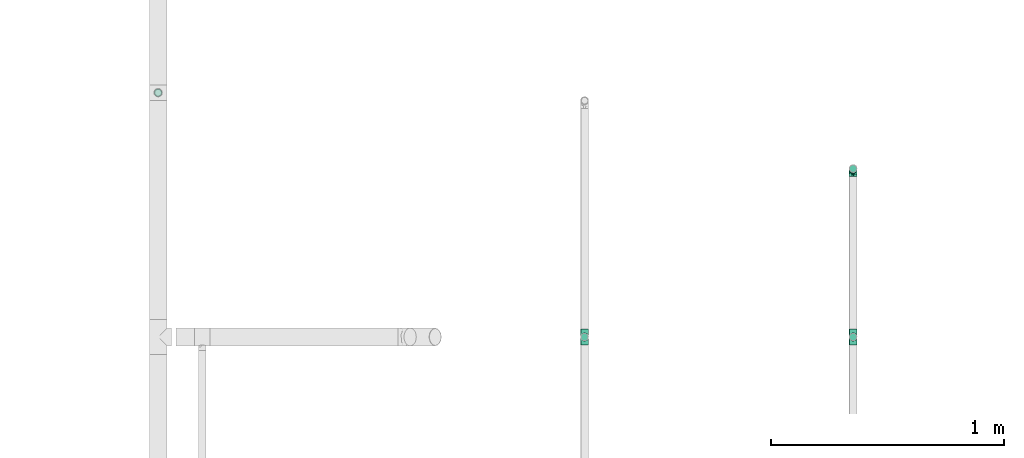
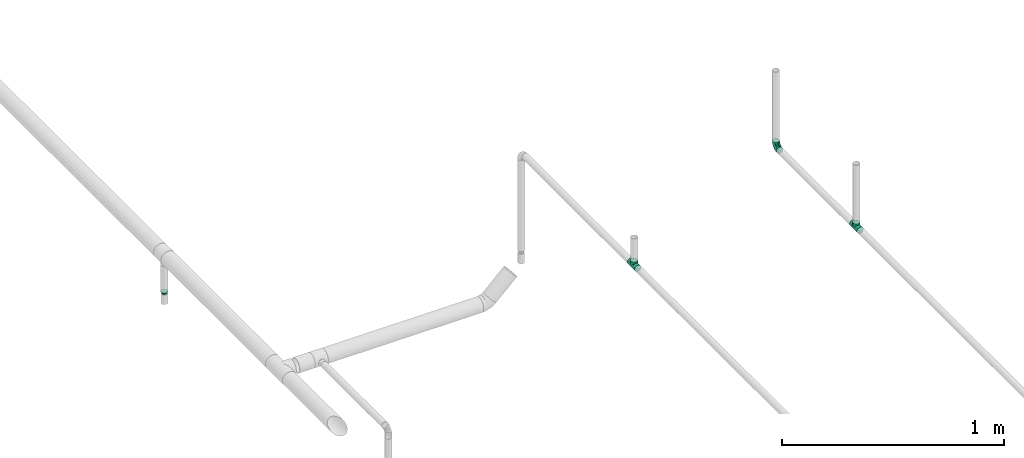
# One storey, part 42 of 95: 4 flow fittings.
"""IFC2X3 building model written with IfcOpenShell, lengths in millimetres."""

from ifc_helpers import new_model, entity, si_unit, converted_unit, derived_unit, direction, frame, origin_with_axes, place, context, subcontext, project, spatial, open_shell, surface_model, source, transform, mapped, type_object, element, save


model = new_model("IFC2X3")

# Units and contexts
model_context = context("Model", 3, precision=0.01, world=frame((0.0, 4.29681676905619e-09, 0.0)), true_north=direction((4.01073788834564e-13, 1.0)))
plan_context = context("Plan", 3, precision=0.01, world=frame((0.0, 4.29681676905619e-09, 0.0)), true_north=direction((4.01073788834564e-13, 1.0)))
body_context = subcontext(model_context, "Body", "Model", "MODEL_VIEW")
ifc_project = project(units=[converted_unit("PLANEANGLEUNIT", "DEGREE", entity("IfcPositiveLengthMeasure", 0.0174532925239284), si_unit("PLANEANGLEUNIT", "RADIAN"), dimensions=[0, 0, 0, 0, 0, 0, 0]), si_unit("AREAUNIT", "SQUARE_METRE"), si_unit("LENGTHUNIT", "METRE", prefix="MILLI"), si_unit("MASSUNIT", "GRAM", prefix="KILO"), si_unit("POWERUNIT", "WATT"), si_unit("PRESSUREUNIT", "PASCAL"), si_unit("FORCEUNIT", "NEWTON", prefix="KILO"), si_unit("ELECTRICVOLTAGEUNIT", "VOLT"), si_unit("ELECTRICCURRENTUNIT", "AMPERE"), si_unit("THERMODYNAMICTEMPERATUREUNIT", "DEGREE_CELSIUS"), si_unit("TIMEUNIT", "SECOND"), si_unit("VOLUMEUNIT", "CUBIC_METRE"), derived_unit("LINEARVELOCITYUNIT", [(si_unit("LENGTHUNIT", "METRE"), 1), (si_unit("TIMEUNIT", "SECOND"), -1)]), derived_unit("VOLUMETRICFLOWRATEUNIT", [(si_unit("VOLUMEUNIT", "CUBIC_METRE"), 1), (si_unit("TIMEUNIT", "SECOND"), -1)]), derived_unit("THERMALTRANSMITTANCEUNIT", [(si_unit("POWERUNIT", "WATT"), 1), (si_unit("THERMODYNAMICTEMPERATUREUNIT", "KELVIN"), -1), (si_unit("AREAUNIT", "SQUARE_METRE"), -1)]), derived_unit("SOUNDPRESSUREUNIT", [(si_unit("PRESSUREUNIT", "PASCAL"), 1)])], contexts=[model_context, plan_context])

# Site, building, storey
site_placement = place(None, frame((0.0, -4.29681676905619e-09, 0.0), z_axis=(0.0, 0.0, 1.0), x_axis=(1.0, 0.0, 0.0)))
site = spatial("IfcSite", under=ifc_project, at=site_placement, CompositionType="ELEMENT")
building_placement = place(site_placement, frame((0.0, 4.29681676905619e-09, 0.0), z_axis=(0.0, 0.0, 1.0), x_axis=(1.0, 0.0, 0.0)))
building = spatial("IfcBuilding", under=site, at=building_placement, Name="mc-building", CompositionType="ELEMENT")
storey_placement = place(building_placement, frame((0.0, 0.0, 210900.0), z_axis=(0.0, 0.0, 1.0), x_axis=(1.0, 0.0, 0.0)))
storey = spatial("IfcBuildingStorey", under=building, at=storey_placement, Name="Nivå F", CompositionType="ELEMENT", Elevation=210900.0)

# Flow fittings
pipe_fitting_type_1 = type_object("IfcPipeFittingType", Name="magi_pipe_fe_reducer_centric_short_NOR", PredefinedType="TRANSITION")
shared_shape_1 = source(origin_with_axes(), body_context, "Body", "SurfaceModel", [
    surface_model("IfcShellBasedSurfaceModel", [(14.4, 5.35, -9.26647), (14.4, 0.0, -10.7), (14.4, 2.76936, -10.33541), (14.4, 10.33541, -2.76936), (14.4, 7.56604, -7.56604), (14.4, -10.33541, -2.76936), (14.4, 9.26647, -5.35), (14.4, 0.0, 10.7), (14.4, -5.35, -9.26647), (14.4, -2.76936, -10.33541), (14.4, -7.56604, -7.56604), (14.4, -9.26647, -5.35), (14.4, 10.7, 0.0), (14.4, 10.33541, 2.76936), (14.4, 9.26647, 5.35), (14.4, 7.56604, 7.56604), (14.4, 2.76936, 10.33541), (14.4, 5.35, 9.26647), (14.4, -10.33541, 2.76936), (14.4, -7.56604, 7.56604), (14.4, -9.26647, 5.35), (14.4, -10.7, 0.0), (14.4, -2.76936, 10.33541), (14.4, -5.35, 9.26647), (12.4, 2.76936, 10.33541), (12.4, -10.33541, -2.76936), (12.4, 0.0, 10.7), (12.4, 5.35, 9.26647), (12.4, 7.56604, 7.56604), (12.4, 9.26647, 5.35), (12.4, 10.33541, 2.76936), (12.4, -10.33541, 2.76936), (12.4, -2.76936, 10.33541), (12.4, -7.56604, 7.56604), (12.4, -5.35, 9.26647), (12.4, -9.26647, 5.35), (12.4, -10.7, 0.0), (12.4, 10.33541, -2.76936), (12.4, 5.35, -9.26647), (12.4, 9.26647, -5.35), (12.4, 7.56604, -7.56604), (12.4, 2.76936, -10.33541), (12.4, -9.26647, -5.35), (12.4, -5.35, -9.26647), (12.4, -7.56604, -7.56604), (12.4, 0.0, -10.7), (12.4, -2.76936, -10.33541), (12.4, 10.7, 0.0), (-2.0, 11.9501, 11.9501), (-2.0, 0.0, 16.9), (-2.0, 4.37404, 16.32415), (-2.0, 8.45, 14.63583), (-2.0, 14.63583, 8.45), (-2.0, 16.32415, 4.37404), (-2.0, -16.32415, 4.37404), (-2.0, -8.45, 14.63583), (-2.0, -14.63583, 8.45), (-2.0, -11.9501, 11.9501), (-2.0, -4.37404, 16.32415), (-2.0, -16.32415, -4.37404), (-2.0, -16.9, 0.0), (-2.0, -8.45, -14.63583), (-2.0, 16.32415, -4.37404), (-2.0, 11.9501, -11.9501), (-2.0, 14.63583, -8.45), (-2.0, 8.45, -14.63583), (-2.0, 4.37404, -16.32415), (-2.0, 0.0, -16.9), (-2.0, -11.9501, -11.9501), (-2.0, -14.63583, -8.45), (-2.0, -4.37404, -16.32415), (-2.0, 16.9, 0.0), (0.0, 4.37404, -16.32415), (0.0, 8.45, -14.63583), (0.0, 11.9501, -11.9501), (0.0, 0.0, -16.9), (0.0, 16.32415, -4.37404), (0.0, 16.32415, 4.37404), (0.0, 14.63583, -8.45), (0.0, -8.45, -14.63583), (0.0, -4.37404, -16.32415), (0.0, -11.9501, -11.9501), (0.0, -16.32415, -4.37404), (0.0, -14.63583, -8.45), (0.0, -16.32415, 4.37404), (0.0, 16.9, 0.0), (0.0, 14.63583, 8.45), (0.0, 11.9501, 11.9501), (0.0, 4.37404, 16.32415), (0.0, 8.45, 14.63583), (0.0, 0.0, 16.9), (0.0, -14.63583, 8.45), (0.0, -16.9, 0.0), (0.0, -8.45, 14.63583), (0.0, -11.9501, 11.9501), (0.0, -4.37404, 16.32415), (12.4, 9.3625, -2.31662), (0.0, 14.42505, -5.97505), (0.0, 15.66253, -2.98753), (12.4, -6.6875, -6.94985), (0.0, -13.18758, -8.96258), (0.0, 2.98753, -15.66253), (12.4, 0.0, -9.26647), (12.4, 6.6875, -6.94985), (0.0, 8.96258, -13.18758), (12.4, -9.3625, -2.31662), (0.0, -15.66253, -2.98753), (0.0, -14.42505, -5.97505), (0.0, 5.97505, -14.42505), (0.0, -2.98753, -15.66253), (0.0, -8.96258, -13.18758), (0.0, 13.18758, -8.96258), (12.4, 8.025, -4.63324), (12.4, -2.675, -9.26647), (12.4, 2.675, -9.26647), (0.0, -5.97505, -14.42505), (12.4, -8.025, -4.63324), (12.4, -9.3625, 2.31662), (0.0, -14.42505, 5.97505), (0.0, -15.66253, 2.98753), (12.4, 6.6875, 6.94985), (0.0, 13.18758, 8.96258), (0.0, -2.98753, 15.66253), (12.4, 0.0, 9.26647), (12.4, -6.6875, 6.94985), (0.0, -8.96258, 13.18758), (12.4, 9.3625, 2.31662), (0.0, 15.66253, 2.98753), (0.0, 14.42505, 5.97505), (0.0, -5.97505, 14.42505), (0.0, 2.98753, 15.66253), (0.0, 8.96258, 13.18758), (0.0, -13.18758, 8.96258), (12.4, -8.025, 4.63324), (12.4, 2.675, 9.26647), (12.4, -2.675, 9.26647), (0.0, 5.97505, 14.42505), (12.4, 8.025, 4.63324)], [open_shell([[[0, 1, 2]], [[3, 0, 4]], [[5, 0, 3]], [[3, 4, 6]], [[7, 5, 3]], [[1, 8, 9]], [[1, 0, 8]], [[10, 5, 11]], [[5, 10, 8]], [[0, 5, 8]], [[3, 12, 13]], [[13, 14, 15]], [[13, 15, 16]], [[7, 3, 16]], [[16, 15, 17]], [[7, 18, 5]], [[18, 19, 20]], [[21, 5, 18]], [[19, 22, 23]], [[22, 19, 18]], [[7, 22, 18]], [[13, 16, 3]], [[24, 25, 26]], [[27, 25, 24]], [[28, 29, 30]], [[28, 25, 27]], [[31, 26, 25]], [[32, 33, 34]], [[33, 32, 31]], [[33, 31, 35]], [[32, 26, 31]], [[31, 25, 36]], [[30, 37, 28]], [[25, 28, 37]], [[38, 37, 39]], [[37, 38, 25]], [[38, 39, 40]], [[41, 25, 38]], [[42, 43, 44]], [[43, 42, 25]], [[43, 45, 46]], [[43, 25, 41]], [[41, 45, 43]], [[37, 30, 47]], [[25, 5, 36]], [[42, 11, 25]], [[8, 44, 43]], [[42, 44, 10]], [[9, 43, 46]], [[25, 11, 5]], [[5, 21, 36]], [[9, 8, 43]], [[10, 44, 8]], [[10, 11, 42]], [[1, 9, 46]], [[46, 45, 1]], [[41, 2, 45]], [[38, 0, 41]], [[6, 40, 39]], [[38, 40, 4]], [[3, 39, 37]], [[38, 4, 0]], [[0, 2, 41]], [[12, 3, 37]], [[6, 39, 3]], [[6, 4, 40]], [[47, 12, 37]], [[45, 2, 1]], [[30, 13, 47]], [[29, 14, 30]], [[17, 28, 27]], [[29, 28, 15]], [[16, 27, 24]], [[30, 14, 13]], [[13, 12, 47]], [[16, 17, 27]], [[15, 28, 17]], [[15, 14, 29]], [[7, 16, 24]], [[24, 26, 7]], [[32, 22, 26]], [[34, 23, 32]], [[20, 33, 35]], [[34, 33, 19]], [[18, 35, 31]], [[34, 19, 23]], [[23, 22, 32]], [[21, 18, 31]], [[20, 35, 18]], [[20, 19, 33]], [[36, 21, 31]], [[26, 22, 7]], [[48, 49, 50]], [[48, 50, 51]], [[48, 52, 53]], [[48, 53, 49]], [[49, 53, 54]], [[55, 56, 57]], [[55, 58, 49]], [[56, 55, 49]], [[49, 54, 56]], [[54, 59, 60]], [[54, 53, 61]], [[53, 62, 63]], [[63, 62, 64]], [[63, 65, 66]], [[61, 53, 63]], [[67, 63, 66]], [[59, 68, 69]], [[68, 59, 61]], [[61, 67, 70]], [[59, 54, 61]], [[63, 67, 61]], [[53, 71, 62]], [[72, 73, 74]], [[75, 72, 74]], [[74, 76, 77]], [[76, 74, 78]], [[74, 77, 79]], [[75, 79, 80]], [[75, 74, 79]], [[81, 82, 83]], [[82, 81, 79]], [[79, 84, 82]], [[77, 76, 85]], [[77, 86, 87]], [[77, 87, 88]], [[88, 84, 79]], [[88, 87, 89]], [[84, 88, 90]], [[90, 91, 84]], [[92, 82, 84]], [[91, 93, 94]], [[91, 90, 93]], [[93, 90, 95]], [[79, 77, 88]], [[59, 82, 60]], [[69, 83, 59]], [[79, 68, 61]], [[69, 68, 81]], [[80, 61, 70]], [[59, 83, 82]], [[82, 92, 60]], [[80, 79, 61]], [[81, 68, 79]], [[81, 83, 69]], [[75, 80, 70]], [[70, 67, 75]], [[66, 72, 67]], [[65, 73, 66]], [[78, 63, 64]], [[65, 63, 74]], [[76, 64, 62]], [[65, 74, 73]], [[73, 72, 66]], [[85, 76, 62]], [[78, 64, 76]], [[78, 74, 63]], [[71, 85, 62]], [[67, 72, 75]], [[53, 77, 71]], [[52, 86, 53]], [[89, 48, 51]], [[52, 48, 87]], [[88, 51, 50]], [[53, 86, 77]], [[77, 85, 71]], [[88, 89, 51]], [[87, 48, 89]], [[87, 86, 52]], [[90, 88, 50]], [[50, 49, 90]], [[58, 95, 49]], [[55, 93, 58]], [[91, 57, 56]], [[55, 57, 94]], [[84, 56, 54]], [[55, 94, 93]], [[93, 95, 58]], [[92, 84, 54]], [[91, 56, 84]], [[91, 94, 57]], [[60, 92, 54]], [[49, 95, 90]], [[27, 34, 47]], [[47, 34, 43]], [[43, 38, 47]], [[43, 34, 36]], [[90, 87, 94]], [[92, 94, 87]], [[87, 74, 92]], [[75, 92, 74]], [[81, 92, 75]], [[74, 87, 85]], [[96, 97, 98]], [[81, 99, 100]], [[101, 102, 75]], [[98, 85, 47]], [[74, 103, 104]], [[104, 103, 38]], [[105, 106, 107]], [[38, 108, 104]], [[102, 109, 75]], [[110, 99, 81]], [[47, 96, 98]], [[103, 111, 112]], [[109, 102, 113]], [[36, 92, 106]], [[102, 101, 114]], [[110, 115, 43]], [[96, 112, 97]], [[107, 116, 105]], [[36, 106, 105]], [[113, 115, 109]], [[43, 115, 113]], [[116, 107, 100]], [[108, 38, 114]], [[111, 103, 74]], [[111, 97, 112]], [[99, 110, 43]], [[116, 100, 99]], [[101, 108, 114]], [[117, 118, 119]], [[87, 120, 121]], [[122, 123, 90]], [[119, 92, 36]], [[94, 124, 125]], [[125, 124, 34]], [[126, 127, 128]], [[34, 129, 125]], [[123, 130, 90]], [[131, 120, 87]], [[36, 117, 119]], [[124, 132, 133]], [[130, 123, 134]], [[47, 85, 127]], [[123, 122, 135]], [[131, 136, 27]], [[117, 133, 118]], [[128, 137, 126]], [[47, 127, 126]], [[134, 136, 130]], [[27, 136, 134]], [[137, 128, 121]], [[129, 34, 135]], [[132, 124, 94]], [[132, 118, 133]], [[120, 131, 27]], [[137, 121, 120]], [[122, 129, 135]]])]),
])
flow_fitting_1_placement = place(storey_placement, frame((520864.85321, 447242.4, 4166.65145999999), z_axis=(0.0, -1.0, 0.0), x_axis=(0.00933600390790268, 0.0, -0.999956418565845)))
element("IfcFlowFitting", 1, at=flow_fitting_1_placement, inside=storey, type_object=pipe_fitting_type_1, Name="magi_pipe_fe_reducer_centric_short_NOR", context=body_context, shape_type="MappedRepresentation", body=[
    mapped(shared_shape_1, transform((0.0, 0.0, 0.0), scale=1.0)),
])
pipe_fitting_type_2 = type_object("IfcPipeFittingType", Name="magi_pipe_fe_elbow_short_001", PredefinedType="BEND")
shared_shape_2 = source(origin_with_axes(), body_context, "Body", "SurfaceModel", [
    surface_model("IfcShellBasedSurfaceModel", [(-33.8, 8.45, -14.63583), (-33.8, 4.37404, -16.32415), (-33.8, 11.9501, -11.9501), (-33.8, -11.9501, -11.9501), (-33.8, -14.63583, -8.45), (-33.8, -8.45, -14.63583), (-33.8, 0.0, -16.9), (-33.8, -4.37404, -16.32415), (-33.8, -4.37404, 16.32415), (-33.8, 0.0, 16.9), (-33.8, -8.45, 14.63583), (-33.8, 16.32415, -4.37404), (-33.8, 14.63583, -8.45), (-33.8, -16.32415, -4.37404), (-33.8, -16.9, 0.0), (-33.8, -16.32415, 4.37404), (-33.8, 11.9501, 11.9501), (-33.8, 14.63583, 8.45), (-33.8, 16.32415, 4.37404), (-33.8, 4.37404, 16.32415), (-33.8, 8.45, 14.63583), (-33.8, -14.63583, 8.45), (-33.8, -11.9501, 11.9501), (-33.8, 16.9, 0.0), (-11.9501, 33.8, -11.9501), (0.0, 33.8, -16.9), (-4.37404, 33.8, -16.32415), (-8.45, 33.8, -14.63583), (-14.63583, 33.8, -8.45), (-16.32415, 33.8, -4.37404), (14.63583, 33.8, -8.45), (8.45, 33.8, 14.63583), (16.32415, 33.8, -4.37404), (8.45, 33.8, -14.63583), (11.9501, 33.8, -11.9501), (4.37404, 33.8, -16.32415), (16.32415, 33.8, 4.37404), (16.9, 33.8, 0.0), (-11.9501, 33.8, 11.9501), (-16.32415, 33.8, 4.37404), (-14.63583, 33.8, 8.45), (-8.45, 33.8, 14.63583), (-4.37404, 33.8, 16.32415), (11.9501, 33.8, 11.9501), (14.63583, 33.8, 8.45), (0.0, 33.8, 16.9), (4.37404, 33.8, 16.32415), (-16.9, 33.8, 0.0), (-24.79389, -13.12945, 9.48721), (-22.19287, -9.75018, 12.59315), (-24.09897, -14.97035, 0.0), (-14.93934, -10.76256, 8.5297), (-22.46095, -14.75051, 5.27077), (14.75051, 22.46094, 5.27077), (11.9251, 13.23888, 4.33236), (13.04069, 14.39795, 0.0), (7.71387, 13.68847, 11.55891), (9.75018, 22.19287, 12.59315), (4.10169, 13.0571, 14.04018), (-24.84007, -6.39063, 15.2048), (-25.81779, -2.23879, 16.61097), (-23.66549, 2.59054, 16.87119), (-26.50418, 14.06512, 11.08152), (-24.21253, 17.66365, 7.72657), (-29.58514, 15.86957, 7.00283), (-6.17382, -7.5455, 0.0), (-13.23888, -11.9251, 4.33236), (-14.39795, -13.04069, 0.0), (-17.81434, 18.87373, 11.97104), (-6.30846, 29.15138, 15.82987), (-2.31622, 25.28002, 16.85849), (-29.23923, 10.23435, 13.77053), (-1.45439, -2.85688, 7.61475), (-0.28326, 0.34872, 10.09509), (-5.74484, -4.04709, 10.4122), (-4.41137, 11.31918, 16.59407), (-8.39727, 3.10034, 15.7812), (-1.72649, 9.1306, 15.53089), (-17.39909, 24.75344, 7.64977), (-26.19233, 20.0512, 0.0), (-28.14518, 17.29657, 4.25857), (-26.05147, 6.6281, 15.96447), (-5.87354, 16.61944, 16.86968), (-12.51807, 12.51807, 16.48937), (-10.06312, 7.38516, 16.81295), (-3.01882, 3.01882, 13.81718), (-13.0571, -4.10169, 14.04018), (-16.82553, -0.15166, 16.38038), (10.76256, 14.93934, 8.5297), (13.12945, 24.79389, 9.48721), (6.39063, 24.84007, 15.2048), (2.23879, 25.81779, 16.61097), (-13.68847, -7.71387, 11.55891), (14.97035, 24.09897, 0.0), (-7.30894, 22.89991, 16.09489), (-10.67958, 26.17414, 14.008), (-12.78295, 18.26924, 15.06066), (-13.88562, 22.45231, 12.93244), (-18.04944, 15.16501, 14.04434), (-23.11658, 20.08178, 4.02986), (-21.84989, 21.84989, 0.0), (-18.55817, 25.48277, 3.93065), (-13.95142, 26.94732, 11.03289), (-18.57098, 7.23906, 16.59756), (-16.58335, 4.14122, 16.89279), (-17.96666, 11.46709, 15.63151), (-9.84453, 17.54304, 16.18938), (0.15166, 16.82553, 16.38038), (-23.27207, 11.47201, 14.23154), (3.84842, 5.86994, 10.70473), (-8.0212, -7.54413, 7.93275), (1.00345, -2.19508, 4.57414), (5.13203, 3.01004, 5.90201), (5.24161, 1.7543, 2.53265), (8.70457, 7.04947, 3.99182), (-20.0512, 26.19233, 0.0), (8.4852, 8.76699, 7.09296), (-4.55488, -6.72064, 4.90681), (2.05031, -2.05031, 0.0), (7.5455, 6.17382, 0.0), (-26.75399, 2.1369, -16.845), (-14.61995, 24.73803, -11.27736), (-28.45274, -13.45335, -9.81895), (-26.00469, 6.63555, -15.96645), (-23.06726, 20.04573, -4.26202), (-13.80647, -4.26506, -14.17873), (-14.67501, -0.21081, -16.07388), (-6.7902, -0.2828, -13.8478), (-24.53586, 11.08096, -14.13417), (-26.72048, 14.00837, -11.05776), (10.0967, 24.44989, -12.75976), (5.83237, 21.40218, -15.03047), (6.66249, 28.54238, -15.38093), (-20.38182, 15.48705, -12.74596), (12.53268, 21.23441, -9.15363), (12.54494, 15.67504, -5.54878), (9.7522, 12.89279, -8.66343), (-15.65186, 19.64213, -13.01327), (-12.03528, 20.66498, -14.67665), (-15.61907, 15.61906, -14.83879), (-25.56551, -15.26206, 0.0), (-24.65452, -15.12934, -5.50955), (13.45335, 28.45274, -9.81895), (15.12934, 24.65452, -5.50955), (-7.35442, -8.31014, -5.65563), (-15.67504, -12.54494, -5.54878), (-24.44989, -10.0967, -12.75976), (0.16522, 0.41303, -9.71728), (-5.70658, -5.33066, -8.89288), (-5.13869, -2.37198, -11.53565), (-21.23441, -12.53268, -9.15363), (0.71146, 7.93863, -14.09382), (0.21081, 14.67501, -16.07388), (3.49291, 14.42772, -14.76381), (-24.89911, -2.13088, -16.591), (-28.54238, -6.66249, -15.38093), (-18.44386, -7.71663, -13.26957), (2.13088, 24.89911, -16.591), (-28.64342, 17.44413, -2.89318), (1.70017, -1.28722, -5.09504), (-16.57067, 26.81947, -7.36596), (-17.69055, 27.4263, -3.76405), (-12.89279, -9.7522, -8.66343), (-5.96611, 5.96611, -15.95814), (-20.53709, 20.09345, -8.28985), (-2.1369, 26.75399, -16.845), (-6.89872, 24.58781, -16.02578), (-10.60739, 26.53157, -13.98044), (-21.40218, -5.83237, -15.03047), (2.93192, 5.89627, -11.55917), (6.89393, 12.61842, -11.82233), (5.58056, 5.95325, -8.79455), (-3.99512, 18.61798, -16.89635), (8.31014, 7.35442, -5.65563), (-9.1383, 9.86148, -16.89041), (-9.99983, 16.02119, -16.39699), (-16.68576, 9.78031, -16.34199), (-27.01915, 16.61158, -7.12979), (15.26206, 25.56551, 0.0), (-18.61798, 3.99512, -16.89635), (-19.37495, 27.82495, 0.0), (-12.61842, -6.89393, -11.82233), (-18.84705, 19.14018, -10.96545)], [open_shell([[[0, 1, 2]], [[3, 4, 5]], [[6, 7, 5]], [[8, 9, 10]], [[1, 6, 2]], [[11, 12, 2]], [[4, 2, 6]], [[2, 13, 10]], [[5, 4, 6]], [[2, 4, 13]], [[14, 15, 13]], [[11, 2, 16]], [[11, 17, 18]], [[11, 16, 17]], [[19, 20, 16]], [[16, 2, 10]], [[19, 16, 10]], [[21, 22, 15]], [[22, 13, 15]], [[22, 10, 13]], [[10, 9, 19]], [[11, 18, 23]], [[24, 25, 26]], [[24, 26, 27]], [[24, 28, 29]], [[25, 24, 30]], [[31, 32, 24]], [[33, 30, 34]], [[33, 35, 25]], [[25, 30, 33]], [[32, 30, 24]], [[32, 36, 37]], [[38, 24, 29]], [[39, 40, 29]], [[40, 38, 29]], [[38, 41, 42]], [[38, 31, 24]], [[31, 38, 42]], [[36, 43, 44]], [[36, 32, 43]], [[31, 45, 46]], [[32, 31, 43]], [[42, 45, 31]], [[39, 29, 47]], [[22, 48, 49]], [[15, 14, 50]], [[51, 48, 52]], [[53, 54, 55]], [[48, 22, 21]], [[15, 52, 21]], [[56, 57, 58]], [[49, 10, 22]], [[49, 59, 10]], [[9, 60, 61]], [[62, 63, 64]], [[65, 66, 67]], [[57, 43, 31]], [[62, 68, 63]], [[42, 69, 70]], [[20, 71, 16]], [[8, 60, 9]], [[72, 73, 74]], [[75, 76, 77]], [[16, 62, 17]], [[40, 39, 78]], [[79, 23, 80]], [[64, 18, 17]], [[9, 61, 19]], [[19, 81, 20]], [[82, 83, 84]], [[74, 85, 86]], [[59, 86, 87]], [[88, 89, 57]], [[90, 31, 46]], [[44, 53, 36]], [[46, 45, 91]], [[54, 53, 88]], [[44, 89, 53]], [[92, 86, 49]], [[89, 44, 43]], [[10, 59, 8]], [[53, 55, 93]], [[93, 36, 53]], [[66, 52, 67]], [[94, 82, 70]], [[95, 96, 94]], [[97, 98, 96]], [[79, 99, 100]], [[41, 38, 95]], [[101, 100, 99]], [[68, 78, 63]], [[42, 41, 69]], [[23, 18, 80]], [[95, 94, 69]], [[78, 101, 99]], [[38, 102, 95]], [[70, 45, 42]], [[97, 95, 102]], [[15, 50, 52]], [[90, 57, 31]], [[57, 90, 58]], [[81, 19, 61]], [[103, 104, 84]], [[105, 81, 103]], [[38, 40, 102]], [[106, 96, 83]], [[94, 106, 82]], [[91, 70, 107]], [[71, 62, 16]], [[62, 108, 98]], [[86, 59, 49]], [[67, 52, 50]], [[60, 59, 87]], [[92, 49, 51]], [[86, 85, 76]], [[91, 90, 46]], [[37, 36, 93]], [[107, 77, 58]], [[107, 58, 90]], [[58, 85, 109]], [[110, 74, 92]], [[72, 74, 110]], [[66, 51, 52]], [[72, 111, 112]], [[113, 114, 112]], [[56, 88, 57]], [[52, 48, 21]], [[49, 48, 51]], [[57, 89, 43]], [[53, 89, 88]], [[103, 81, 61]], [[71, 81, 108]], [[18, 64, 80]], [[63, 78, 99]], [[47, 115, 101]], [[101, 115, 100]], [[40, 78, 102]], [[68, 102, 78]], [[97, 96, 95]], [[105, 98, 108]], [[103, 84, 83]], [[107, 70, 82]], [[76, 84, 87]], [[82, 84, 75]], [[70, 91, 45]], [[90, 91, 107]], [[59, 60, 8]], [[61, 60, 87]], [[73, 85, 74]], [[109, 112, 116]], [[103, 61, 104]], [[105, 103, 83]], [[96, 105, 83]], [[81, 105, 108]], [[96, 98, 105]], [[62, 98, 68]], [[61, 87, 104]], [[87, 84, 104]], [[86, 76, 87]], [[77, 76, 85]], [[58, 77, 85]], [[75, 77, 107]], [[82, 75, 107]], [[76, 75, 84]], [[81, 71, 20]], [[62, 71, 108]], [[95, 69, 41]], [[70, 69, 94]], [[62, 64, 17]], [[80, 63, 99]], [[63, 80, 64]], [[80, 99, 79]], [[66, 65, 117]], [[110, 66, 117]], [[112, 114, 116]], [[118, 117, 65]], [[110, 92, 51]], [[112, 111, 113]], [[119, 55, 54]], [[74, 86, 92]], [[58, 109, 56]], [[116, 56, 109]], [[66, 110, 51]], [[72, 110, 117]], [[111, 72, 117]], [[73, 112, 109]], [[117, 118, 111]], [[113, 111, 118]], [[118, 119, 113]], [[114, 119, 54]], [[119, 114, 113]], [[116, 54, 88]], [[54, 116, 114]], [[116, 88, 56]], [[112, 73, 72]], [[85, 73, 109]], [[78, 39, 101]], [[47, 101, 39]], [[102, 68, 97]], [[97, 68, 98]], [[82, 106, 83]], [[94, 96, 106]], [[1, 120, 6]], [[28, 24, 121]], [[3, 122, 4]], [[0, 123, 1]], [[100, 124, 79]], [[125, 126, 127]], [[128, 2, 129]], [[130, 131, 132]], [[128, 129, 133]], [[134, 135, 136]], [[137, 138, 139]], [[128, 0, 2]], [[67, 140, 141]], [[134, 142, 143]], [[141, 13, 4]], [[144, 65, 145]], [[146, 3, 5]], [[147, 148, 149]], [[145, 141, 150]], [[151, 152, 153]], [[154, 7, 6]], [[5, 155, 146]], [[150, 146, 156]], [[155, 5, 7]], [[143, 135, 134]], [[35, 157, 25]], [[23, 79, 158]], [[148, 159, 144]], [[160, 161, 29]], [[145, 162, 144]], [[163, 152, 151]], [[29, 28, 160]], [[121, 164, 160]], [[33, 34, 130]], [[25, 165, 26]], [[26, 165, 166]], [[142, 34, 30]], [[24, 27, 167]], [[124, 161, 164]], [[157, 35, 132]], [[155, 154, 168]], [[123, 0, 128]], [[169, 170, 171]], [[172, 157, 152]], [[26, 166, 27]], [[132, 35, 33]], [[142, 130, 34]], [[168, 154, 126]], [[136, 135, 173]], [[133, 137, 139]], [[2, 12, 129]], [[170, 131, 130]], [[30, 32, 143]], [[172, 174, 175]], [[176, 123, 128]], [[158, 177, 11]], [[135, 55, 119]], [[167, 27, 166]], [[175, 166, 172]], [[137, 167, 138]], [[122, 141, 4]], [[140, 14, 13]], [[32, 37, 178]], [[170, 130, 134]], [[152, 157, 131]], [[165, 157, 172]], [[153, 170, 151]], [[152, 163, 174]], [[168, 125, 156]], [[122, 146, 150]], [[120, 154, 6]], [[179, 174, 126]], [[179, 126, 154]], [[126, 163, 127]], [[162, 145, 150]], [[140, 13, 141]], [[32, 178, 143]], [[55, 143, 178]], [[177, 129, 12]], [[128, 133, 139]], [[176, 128, 139]], [[120, 123, 179]], [[121, 160, 28]], [[161, 100, 180]], [[166, 175, 138]], [[121, 24, 167]], [[161, 47, 29]], [[79, 124, 158]], [[124, 164, 177]], [[161, 124, 100]], [[136, 171, 170]], [[127, 163, 151]], [[147, 171, 159]], [[148, 144, 162]], [[127, 151, 169]], [[127, 181, 125]], [[129, 177, 164]], [[12, 11, 177]], [[159, 65, 144]], [[67, 141, 145]], [[143, 55, 135]], [[135, 119, 173]], [[123, 120, 1]], [[154, 120, 179]], [[157, 165, 25]], [[166, 165, 172]], [[172, 152, 174]], [[176, 139, 175]], [[126, 174, 163]], [[176, 174, 179]], [[174, 176, 175]], [[123, 176, 179]], [[150, 181, 162]], [[127, 149, 181]], [[181, 148, 162]], [[159, 148, 147]], [[171, 136, 173]], [[170, 134, 136]], [[159, 171, 173]], [[171, 147, 169]], [[169, 147, 149]], [[151, 170, 169]], [[164, 182, 129]], [[182, 121, 137]], [[181, 149, 148]], [[169, 149, 127]], [[182, 137, 133]], [[167, 137, 121]], [[166, 138, 167]], [[175, 139, 138]], [[129, 182, 133]], [[121, 182, 164]], [[161, 160, 164]], [[47, 161, 180]], [[177, 158, 124]], [[23, 158, 11]], [[130, 132, 33]], [[157, 132, 131]], [[143, 142, 30]], [[130, 142, 134]], [[154, 155, 7]], [[146, 155, 168]], [[146, 122, 3]], [[141, 122, 150]], [[152, 131, 153]], [[159, 119, 118]], [[67, 145, 65]], [[170, 153, 131]], [[119, 159, 173]], [[159, 118, 65]], [[156, 125, 181]], [[126, 125, 168]], [[150, 156, 181]], [[168, 156, 146]]])]),
])
flow_fitting_2_placement = place(storey_placement, frame((523853.43639, 446915.88295, 4113.24799999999), z_axis=(-1.0, 0.0, 0.0), x_axis=(0.0, 0.0, -1.0)))
element("IfcFlowFitting", 2, at=flow_fitting_2_placement, inside=storey, type_object=pipe_fitting_type_2, Name="magi_pipe_fe_elbow_short_001", context=body_context, shape_type="MappedRepresentation", body=[
    mapped(shared_shape_2, transform((0.0, 0.0, 0.0), scale=1.0)),
])
pipe_fitting_type_3 = type_object("IfcPipeFittingType", Name="magi_pipe_fe_tee_centric_90_NOR", PredefinedType="JUNCTION")
shared_shape_3 = source(origin_with_axes(), body_context, "Body", "SurfaceModel", [
    surface_model("IfcShellBasedSurfaceModel", [(-33.8, 4.37404, -16.32415), (-33.8, 0.0, -16.9), (-33.8, 16.32415, -4.37404), (-33.8, 8.45, -14.63583), (-33.8, 11.9501, -11.9501), (-33.8, 14.63583, -8.45), (-33.8, -16.9, 0.0), (-33.8, -11.9501, -11.9501), (-33.8, -14.63583, -8.45), (-33.8, -8.45, -14.63583), (-33.8, -4.37404, -16.32415), (-33.8, -16.32415, -4.37404), (-33.8, 14.63583, 8.45), (-33.8, 16.32415, 4.37404), (-33.8, -8.45, 14.63583), (-33.8, 8.45, 14.63583), (-33.8, 11.9501, 11.9501), (-33.8, 4.37404, 16.32415), (-33.8, 0.0, 16.9), (-33.8, -11.9501, 11.9501), (-33.8, -14.63583, 8.45), (-33.8, -16.32415, 4.37404), (-33.8, -4.37404, 16.32415), (-33.8, 16.9, 0.0), (33.8, 4.37404, -16.32415), (33.8, -16.9, 0.0), (33.8, 0.0, -16.9), (33.8, 14.63583, -8.45), (33.8, 8.45, -14.63583), (33.8, 16.32415, -4.37404), (33.8, 11.9501, -11.9501), (33.8, -16.32415, 4.37404), (33.8, -8.45, -14.63583), (33.8, -4.37404, -16.32415), (33.8, -11.9501, -11.9501), (33.8, -14.63583, -8.45), (33.8, -16.32415, -4.37404), (33.8, 16.32415, 4.37404), (33.8, 8.45, 14.63583), (33.8, 14.63583, 8.45), (33.8, 11.9501, 11.9501), (33.8, -8.45, 14.63583), (33.8, 4.37404, 16.32415), (33.8, -14.63583, 8.45), (33.8, -11.9501, 11.9501), (33.8, 0.0, 16.9), (33.8, -4.37404, 16.32415), (33.8, 16.9, 0.0), (16.28698, -16.28698, 4.51047), (16.9, -16.9, 0.0), (14.62704, -14.62704, 8.4652), (9.47213, -9.47213, 13.99602), (12.26343, -12.26343, 11.62834), (-16.9, -16.9, 0.0), (-16.28698, -16.28698, 4.51047), (-14.62704, -14.62704, 8.4652), (-12.26343, -12.26343, 11.62834), (-9.47213, -9.47213, 13.99602), (-6.42894, -6.42894, 15.62942), (6.42894, -6.42894, 15.62942), (3.24522, -3.24522, 16.58549), (0.0, 0.0, 16.9), (-3.24522, -3.24522, 16.58549), (3.24522, -3.24522, -16.58549), (0.0, 0.0, -16.9), (-3.24522, -3.24522, -16.58549), (-6.42894, -6.42894, -15.62942), (6.42894, -6.42894, -15.62942), (9.47213, -9.47213, -13.99602), (12.26343, -12.26343, -11.62834), (14.62704, -14.62704, -8.4652), (16.28698, -16.28698, -4.51047), (-9.47213, -9.47213, -13.99602), (-12.26343, -12.26343, -11.62834), (-16.28698, -16.28698, -4.51047), (-14.62704, -14.62704, -8.4652), (4.37404, -25.35, -16.32415), (-16.9, -25.35, 0.0), (0.0, -25.35, -16.9), (14.63583, -25.35, -8.45), (8.45, -25.35, -14.63583), (16.32415, -25.35, -4.37404), (11.9501, -25.35, -11.9501), (-11.9501, -25.35, -11.9501), (-8.45, -25.35, -14.63583), (-4.37404, -25.35, -16.32415), (-14.63583, -25.35, -8.45), (-16.32415, -25.35, -4.37404), (16.9, -25.35, 0.0), (8.45, -25.35, 14.63583), (16.32415, -25.35, 4.37404), (14.63583, -25.35, 8.45), (-8.45, -25.35, 14.63583), (11.9501, -25.35, 11.9501), (4.37404, -25.35, 16.32415), (-16.32415, -25.35, 4.37404), (-11.9501, -25.35, 11.9501), (-14.63583, -25.35, 8.45), (0.0, -25.35, 16.9), (-4.37404, -25.35, 16.32415)], [open_shell([[[0, 1, 2]], [[3, 0, 4]], [[0, 2, 5]], [[4, 0, 5]], [[6, 2, 1]], [[7, 8, 9]], [[1, 10, 9]], [[11, 6, 8]], [[1, 9, 8]], [[1, 8, 6]], [[6, 12, 2]], [[12, 13, 2]], [[14, 12, 6]], [[12, 14, 15]], [[16, 12, 15]], [[17, 15, 18]], [[19, 14, 20]], [[21, 20, 14]], [[22, 18, 14]], [[14, 6, 21]], [[14, 18, 15]], [[23, 2, 13]], [[24, 25, 26]], [[27, 24, 28]], [[27, 29, 24]], [[27, 28, 30]], [[31, 25, 24]], [[26, 32, 33]], [[26, 34, 32]], [[35, 25, 36]], [[35, 34, 26]], [[25, 35, 26]], [[24, 29, 31]], [[29, 37, 38]], [[38, 37, 39]], [[38, 31, 29]], [[38, 39, 40]], [[41, 38, 42]], [[43, 41, 44]], [[41, 43, 31]], [[41, 45, 46]], [[41, 31, 38]], [[42, 45, 41]], [[29, 47, 37]], [[31, 43, 48]], [[25, 31, 49]], [[49, 31, 48]], [[43, 50, 48]], [[44, 41, 51]], [[50, 43, 52]], [[51, 52, 44]], [[52, 43, 44]], [[53, 54, 21]], [[53, 21, 6]], [[21, 54, 20]], [[54, 55, 20]], [[56, 57, 19]], [[19, 20, 56]], [[19, 57, 14]], [[56, 20, 55]], [[14, 57, 58]], [[51, 41, 59]], [[60, 45, 61]], [[59, 46, 60]], [[46, 59, 41]], [[60, 46, 45]], [[61, 45, 42]], [[39, 37, 13]], [[16, 38, 40]], [[12, 40, 39]], [[42, 38, 15]], [[23, 37, 47]], [[62, 61, 18]], [[62, 22, 58]], [[22, 62, 18]], [[58, 22, 14]], [[61, 17, 18]], [[42, 17, 61]], [[15, 17, 42]], [[15, 38, 16]], [[12, 16, 40]], [[13, 12, 39]], [[37, 23, 13]], [[5, 27, 30]], [[23, 47, 29]], [[30, 28, 3]], [[27, 2, 29]], [[26, 33, 63]], [[26, 64, 24]], [[64, 26, 63]], [[28, 24, 0]], [[64, 0, 24]], [[4, 30, 3]], [[2, 27, 5]], [[5, 30, 4]], [[2, 23, 29]], [[65, 66, 10]], [[1, 0, 64]], [[1, 65, 10]], [[66, 9, 10]], [[0, 3, 28]], [[1, 64, 65]], [[63, 33, 67]], [[32, 34, 68]], [[69, 68, 34]], [[35, 70, 69]], [[69, 34, 35]], [[32, 68, 67]], [[36, 25, 49]], [[36, 71, 35]], [[71, 36, 49]], [[35, 71, 70]], [[72, 9, 66]], [[72, 7, 9]], [[7, 72, 73]], [[7, 73, 8]], [[74, 53, 11]], [[75, 74, 8]], [[74, 11, 8]], [[11, 53, 6]], [[75, 8, 73]], [[32, 67, 33]], [[76, 77, 78]], [[79, 76, 80]], [[79, 81, 76]], [[79, 80, 82]], [[77, 76, 81]], [[78, 83, 84]], [[84, 85, 78]], [[86, 77, 87]], [[83, 78, 86]], [[77, 86, 78]], [[81, 88, 77]], [[89, 88, 90]], [[89, 90, 91]], [[92, 77, 89]], [[89, 91, 93]], [[92, 89, 94]], [[95, 96, 97]], [[96, 95, 92]], [[92, 98, 99]], [[95, 77, 92]], [[94, 98, 92]], [[89, 77, 88]], [[77, 95, 53]], [[54, 53, 95]], [[97, 96, 56]], [[96, 92, 57]], [[95, 97, 54]], [[58, 92, 99]], [[55, 54, 97]], [[56, 55, 97]], [[58, 57, 92]], [[98, 61, 62]], [[58, 99, 62]], [[56, 96, 57]], [[62, 99, 98]], [[94, 60, 98]], [[89, 59, 94]], [[91, 90, 48]], [[52, 93, 91]], [[93, 51, 89]], [[49, 90, 88]], [[59, 60, 94]], [[51, 59, 89]], [[49, 48, 90]], [[50, 52, 91]], [[48, 50, 91]], [[51, 93, 52]], [[98, 60, 61]], [[88, 81, 49]], [[71, 49, 81]], [[79, 82, 69]], [[82, 80, 68]], [[81, 79, 71]], [[67, 80, 76]], [[70, 71, 79]], [[69, 70, 79]], [[67, 68, 80]], [[78, 64, 63]], [[67, 76, 63]], [[69, 82, 68]], [[63, 76, 78]], [[85, 65, 78]], [[84, 66, 85]], [[86, 87, 74]], [[86, 73, 83]], [[72, 84, 83]], [[53, 87, 77]], [[66, 65, 85]], [[72, 66, 84]], [[53, 74, 87]], [[75, 73, 86]], [[74, 75, 86]], [[72, 83, 73]], [[78, 65, 64]]])]),
])
for number, where, z_axis, x_axis, name in (
    (3, (523853.43639, 446191.7762, 4113.24799999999), (1.0, 0.0, 0.0), (0.0, -1.0, 0.0), "magi_pipe_fe_tee_centric_90_NOR"),
    (4, (522698.68266, 446191.7762, 4308.26618000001), (1.0, 0.0, 0.0), (0.0, -1.0, 0.0), "magi_pipe_fe_tee_centric_90_NOR"),
):
    element("IfcFlowFitting", number, at=place(storey_placement, frame(where, z_axis=z_axis, x_axis=x_axis)), inside=storey, type_object=pipe_fitting_type_3, Name=name, context=body_context, shape_type="MappedRepresentation", body=[
        mapped(shared_shape_3, transform((0.0, 0.0, 0.0), scale=1.0)),
    ])

save(model, "model.ifc")
